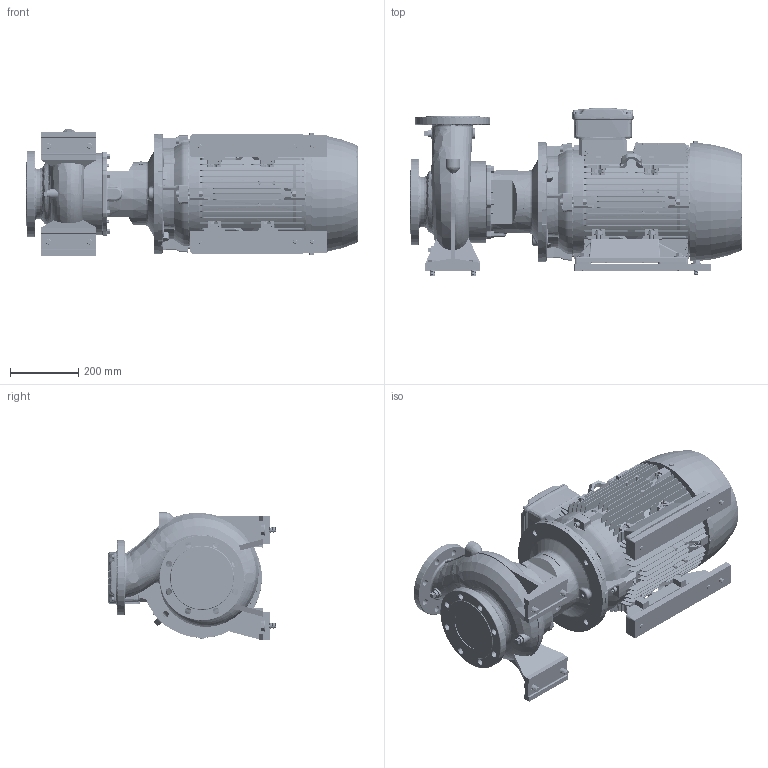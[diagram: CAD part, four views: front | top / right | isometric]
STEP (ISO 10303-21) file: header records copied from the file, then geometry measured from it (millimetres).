
FILE_DESCRIPTION (( 'STEP AP214' ), '1' );
FILE_NAME ('GSD2 100-160_22.0_(180ML)_W21.STEP', '2026-07-08T02:32:35', ( '' ), ( '' ), 'SwSTEP 2.0', 'SolidWorks 2024', '' );
FILE_SCHEMA (( 'AUTOMOTIVE_DESIGN' ));
Length unit declared in the file: millimetre
Products named in the file (12): Parametric bolt_SFT-A305B; Parametric Flat Washer_M16; Parametric bolt and washer_SFT-A305B; Parametric bolt_SFT-A301B; Parametric Flat Washer_M12; Parametric bolt and washer_SFT-A353B; 65x20 - CGSDA-5261; Parametric bolt and washer_SFT-A301B; GSD2  100-160_22.0_(180ML)_W21; 180M_L ALIE3_W21T_B35; Parametric bolt_SFT-A353B; 100-160-180M_L_ﾃﾞﾌｫﾙﾄ
Assembly tree (20 placements, depth 3):
  GSD2  100-160_22.0_(180ML)_W21
    100-160-180M_L_ﾃﾞﾌｫﾙﾄ
    65x20 - CGSDA-5261  x2
    Parametric bolt and washer_SFT-A353B  x4
      Parametric bolt_SFT-A353B
      Parametric Flat Washer_M16
    Parametric bolt and washer_SFT-A301B  x2
      Parametric bolt_SFT-A301B
      Parametric Flat Washer_M12
    Parametric bolt and washer_SFT-A305B  x4
      Parametric bolt_SFT-A305B
      Parametric Flat Washer_M12
    180M_L ALIE3_W21T_B35
Bounding box: 969.8 x 490.53 x 371 mm (x, y, z)
Volume: 65704751.8 mm3; surface area: 3539836.1 mm2
Topology: 49 solids, 49 shells, 6345 faces, 16488 edges, 10679 vertices
Faces by surface type: plane 3759, cylinder 1222, cone 585, bspline 500, torus 263, sphere 16
Entity records: 249662 total; most frequent: CARTESIAN_POINT 112240, ORIENTED_EDGE 30434, DIRECTION 25243, EDGE_CURVE 15217, VERTEX_POINT 9860, VECTOR 9521, LINE 9521, AXIS2_PLACEMENT_3D 7861
